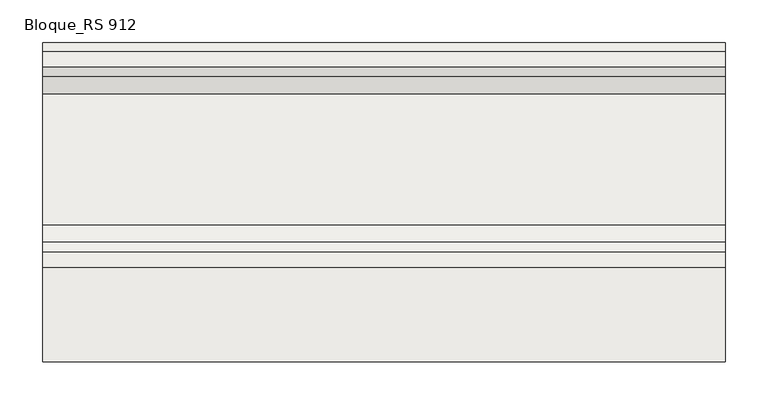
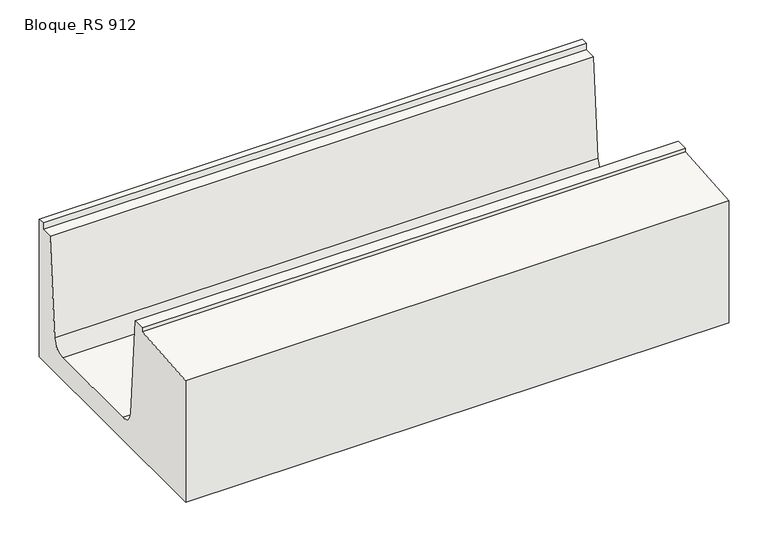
"""IFC4 building model written with IfcOpenShell, lengths in millimetres: slab geometry, ROSA GRES_RS 912 : Bloque_RS 912."""

from ifc_helpers import new_model, si_unit, point, frame, frame_2d, origin, place, context, project, spatial, polyline, circle_curve, trimmed, segment, composite_curve, outline, extrude, source, transform, mapped, element, save


def bloque_rs_912_fb31ae24(model_context):
    return source(origin(), model_context, "Body", "SweptSolid", [
        extrude(outline(composite_curve([segment(polyline([(252.836227, 1.7539108), (252.836227, 191.4681867), (363.836227, 200.5030704), (363.836227, 206.3460936), (381.836227, 206.3460936), (393.5484732, 55.2086635)]), True, "CONTINUOUS"), segment(trimmed(circle_curve(frame_2d((413.4886891, 56.7539108)), 20.0), [point((393.5484732, 55.2086635))], [point((413.4886891, 36.7539108))], True, "CARTESIAN"), True, "CONTINUOUS"), segment(polyline([(413.4886891, 36.7539108), (567.1837649, 36.7539108)]), True, "CONTINUOUS"), segment(trimmed(circle_curve(frame_2d((567.1837649, 56.7539108)), 20.0), [point((567.1837649, 36.7539108))], [point((587.1239808, 55.2086635))], True, "CARTESIAN"), True, "CONTINUOUS"), segment(polyline([(587.1239808, 55.2086635), (598.836227, 206.3460936), (616.836227, 206.3460936), (616.836227, 216.3460936), (626.836227, 216.3460936), (626.836227, 1.7539108), (252.836227, 1.7539108)]), True, "CONTINUOUS")], self_intersect=False)), frame((0.0, 0.0, 0.0), z_axis=(1.0, 0.0, 0.0), x_axis=(0.0, 1.0, 0.0)), (0.0, 0.0, 1.0), 800.0),
    ])


if __name__ == "__main__":
    model = new_model("IFC4")
    model_context = context("Model", 3, world=origin())
    ifc_project = project(units=[si_unit("LENGTHUNIT", "METRE", prefix="MILLI")], contexts=[model_context])
    site = spatial("IfcSite", under=ifc_project)
    building = spatial("IfcBuilding", under=site)
    placement = place(None, origin())
    bloque_rs_912_shape = bloque_rs_912_fb31ae24(model_context)
    element("IfcSlab", 1, ObjectType="ROSA GRES_RS 912 : Bloque_RS 912", at=placement, inside=building, context=model_context, shape_type="MappedRepresentation", body=[
        mapped(bloque_rs_912_shape, transform((0.0, 0.0, 0.0), x_axis=(1.0, 0.0, 0.0), y_axis=(0.0, 1.0, 0.0), z_axis=(0.0, 0.0, 1.0))),
    ])
    save(model, "model.ifc")
